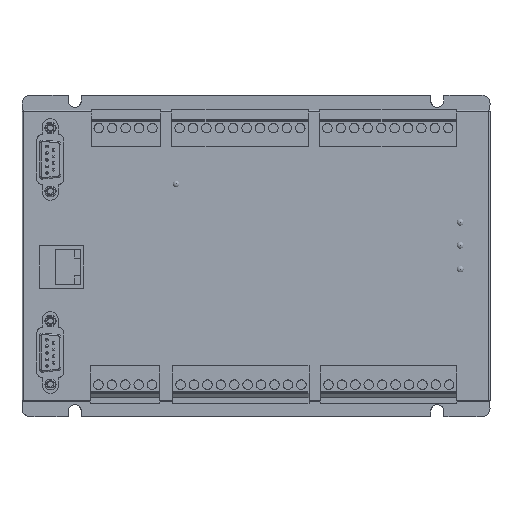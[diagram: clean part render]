
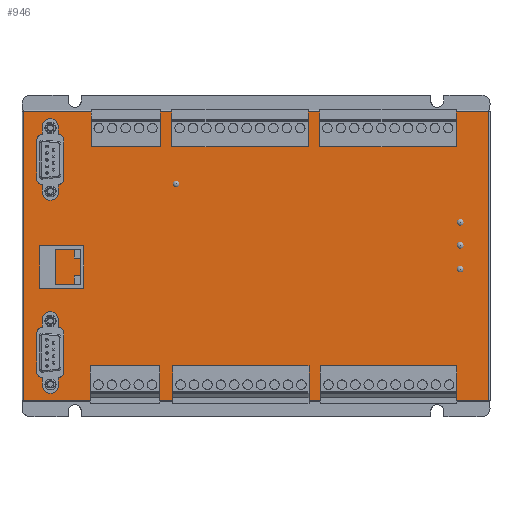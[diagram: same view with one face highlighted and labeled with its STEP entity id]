
A CAD part, top view. The second image highlights one B-rep face of the part: STEP entity #946.
In plain terms, the highlighted planar face has unit normal (0, 0, 1).
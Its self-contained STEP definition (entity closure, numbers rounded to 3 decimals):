
#549=FACE_OUTER_BOUND('',#2066,.T.);
#946=ADVANCED_FACE('',(#549),#1342,.F.);
#1342=PLANE('',#7443);
#2066=EDGE_LOOP('',(#3450,#3451,#3452,#3453));
#3450=ORIENTED_EDGE('',*,*,#5562,.T.);
#3451=ORIENTED_EDGE('',*,*,#5563,.T.);
#3452=ORIENTED_EDGE('',*,*,#5564,.T.);
#3453=ORIENTED_EDGE('',*,*,#5565,.T.);
#4843=VERTEX_POINT('',#11640);
#4844=VERTEX_POINT('',#11641);
#4845=VERTEX_POINT('',#11643);
#4846=VERTEX_POINT('',#11645);
#5562=EDGE_CURVE('',#4843,#4844,#6316,.T.);
#5563=EDGE_CURVE('',#4844,#4845,#6317,.T.);
#5564=EDGE_CURVE('',#4845,#4846,#6318,.T.);
#5565=EDGE_CURVE('',#4846,#4843,#6319,.T.);
#6316=LINE('',#11639,#6850);
#6317=LINE('',#11642,#6851);
#6318=LINE('',#11644,#6852);
#6319=LINE('',#11646,#6853);
#6850=VECTOR('',#8621,1.);
#6851=VECTOR('',#8622,1.);
#6852=VECTOR('',#8623,1.);
#6853=VECTOR('',#8624,1.);
#7443=AXIS2_PLACEMENT_3D('',#11647,#8625,#8626);
#8621=DIRECTION('',(1.,0.,0.));
#8622=DIRECTION('',(0.,1.,0.));
#8623=DIRECTION('',(-1.,0.,0.));
#8624=DIRECTION('',(0.,-1.,0.));
#8625=DIRECTION('',(0.,0.,-1.));
#8626=DIRECTION('',(-1.,0.,0.));
#11639=CARTESIAN_POINT('',(394.182,221.645,0.1));
#11640=CARTESIAN_POINT('',(305.983,221.645,0.1));
#11641=CARTESIAN_POINT('',(482.38,221.645,0.1));
#11642=CARTESIAN_POINT('',(482.38,331.585,0.1));
#11643=CARTESIAN_POINT('',(482.38,331.185,0.1));
#11644=CARTESIAN_POINT('',(394.182,331.185,0.1));
#11645=CARTESIAN_POINT('',(305.983,331.185,0.1));
#11646=CARTESIAN_POINT('',(305.983,331.585,0.1));
#11647=CARTESIAN_POINT('',(394.182,331.585,0.1));
